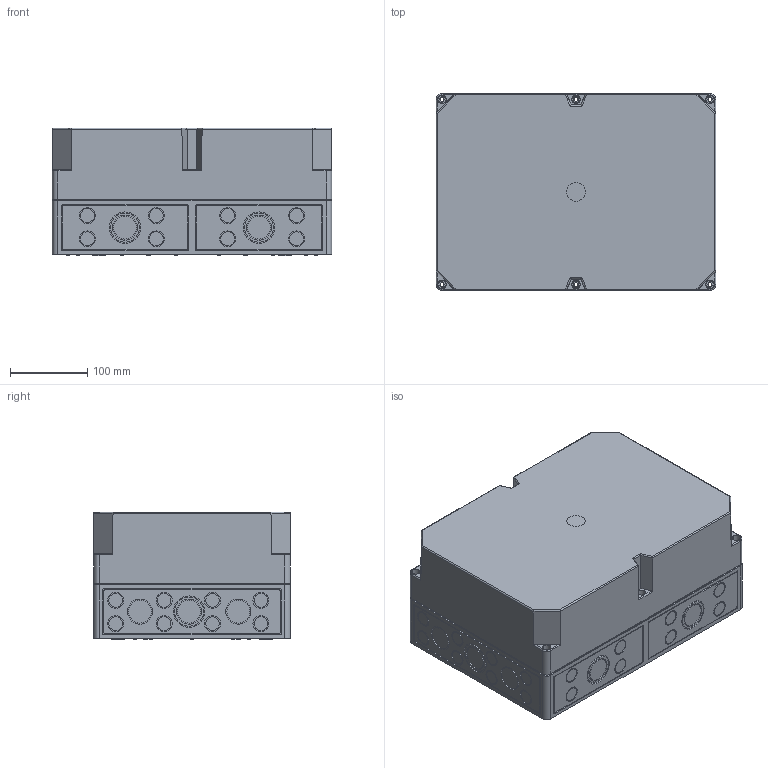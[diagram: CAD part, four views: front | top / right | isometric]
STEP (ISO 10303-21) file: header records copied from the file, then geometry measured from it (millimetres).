
FILE_DESCRIPTION (( 'STEP AP214' ), '1' );
FILE_NAME ('13609V000_Steuerung_twistXXL_Klemmenkasten.STEP', '2018-05-03T09:42:51', ( '' ), ( '' ), 'SwSTEP 2.0', 'SolidWorks 2017', '' );
FILE_SCHEMA (( 'AUTOMOTIVE_DESIGN' ));
Length unit declared in the file: millimetre
Products named in the file (3): 13609V000_Steuerung_twistXXL_Klemmenkasten; 13609v000_klemmenkasten; 90221_13609V000_Klemmenkasten_Deckel
Assembly tree (2 placements, depth 2):
  13609V000_Steuerung_twistXXL_Klemmenkasten
    13609v000_klemmenkasten
    90221_13609V000_Klemmenkasten_Deckel
Bounding box: 361 x 254 x 164.9 mm (x, y, z)
Volume: 1380638.1 mm3; surface area: 802494.8 mm2
Topology: 2 solids, 2 shells, 1171 faces, 2852 edges, 1894 vertices
Faces by surface type: cylinder 640, plane 523, bspline 4, torus 4
Entity records: 36589 total; most frequent: DIRECTION 6380, CARTESIAN_POINT 6354, ORIENTED_EDGE 5704, EDGE_CURVE 2852, AXIS2_PLACEMENT_3D 2416, VERTEX_POINT 1894, VECTOR 1548, LINE 1548
